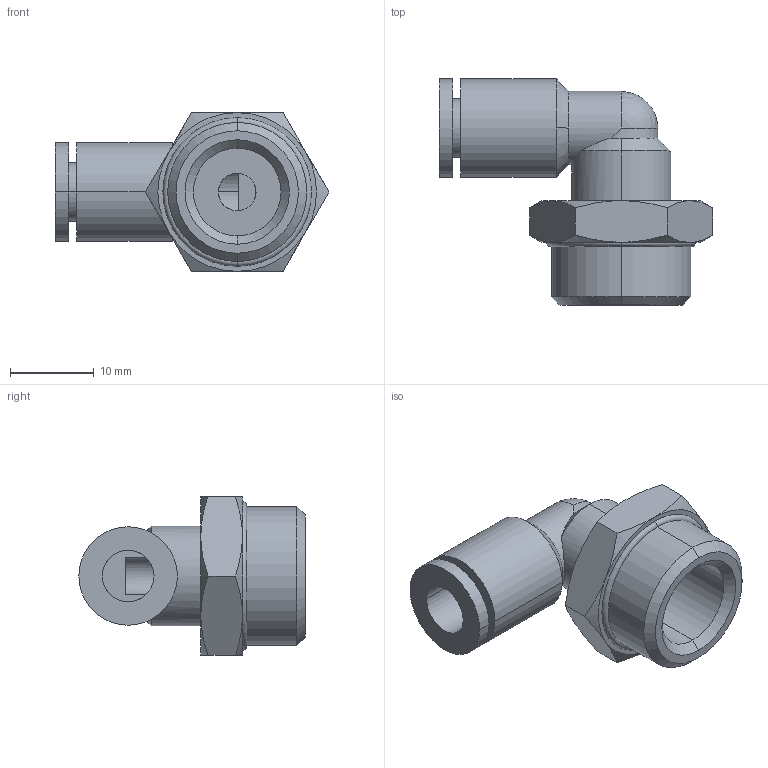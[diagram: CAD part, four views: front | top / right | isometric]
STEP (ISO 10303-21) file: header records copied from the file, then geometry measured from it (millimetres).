
FILE_DESCRIPTION (( 'STEP AP203' ), '1' );
FILE_NAME ('EML06-03G-A.STEP', '2025-10-29T04:37:52', ( '' ), ( '' ), 'SwSTEP 2.0', 'SolidWorks 2023', '' );
FILE_SCHEMA (( 'CONFIG_CONTROL_DESIGN' ));
Length unit declared in the file: millimetre
Products named in the file (1): EML06-03G-A
Bounding box: 32.77 x 27.1 x 19 mm (x, y, z)
Volume: 4326.3 mm3; surface area: 3279.7 mm2
Topology: 1 solids, 1 shells, 58 faces, 135 edges, 82 vertices
Faces by surface type: cone 21, cylinder 19, plane 15, torus 2, sphere 1
Entity records: 1868 total; most frequent: CARTESIAN_POINT 490, DIRECTION 281, ORIENTED_EDGE 266, EDGE_CURVE 133, AXIS2_PLACEMENT_3D 123, VERTEX_POINT 82, EDGE_LOOP 65, CIRCLE 64
